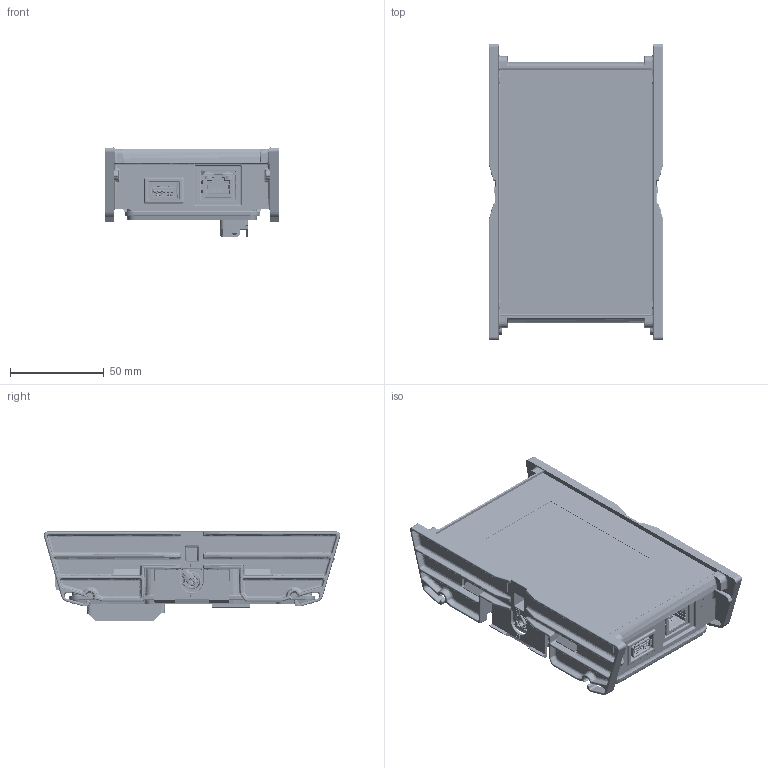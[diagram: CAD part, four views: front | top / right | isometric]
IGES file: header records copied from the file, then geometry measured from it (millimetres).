
Start section:  PTC IGES file: 6159327830_dim.igs
Global section: file name: 6159327830_dim.igs; native system: Creo Parametric by PTC Inc.; preprocessor: 2022414; author: SYSTEM; organization: Unknown; date: 20250320.162835; units: millimetre
Bounding box: 93.2 x 158.29 x 47.54 mm (x, y, z)
Surface area: 158343.4 mm2 (no closed solid volume)
Topology: 0 solids, 0 shells, 6293 faces, 42386 edges, 42354 vertices
Faces by surface type: bspline 3695, revolution 2221, extrusion 377
